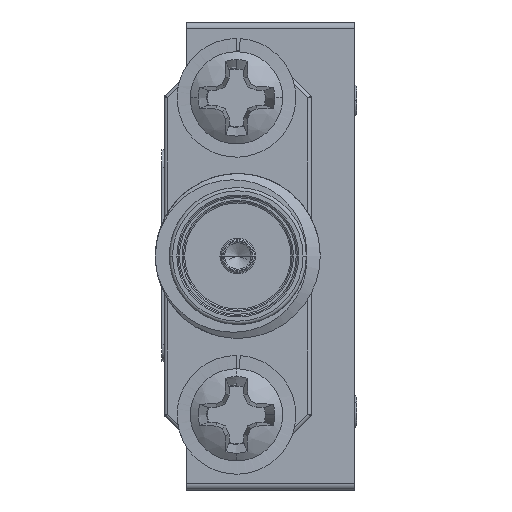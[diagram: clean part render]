
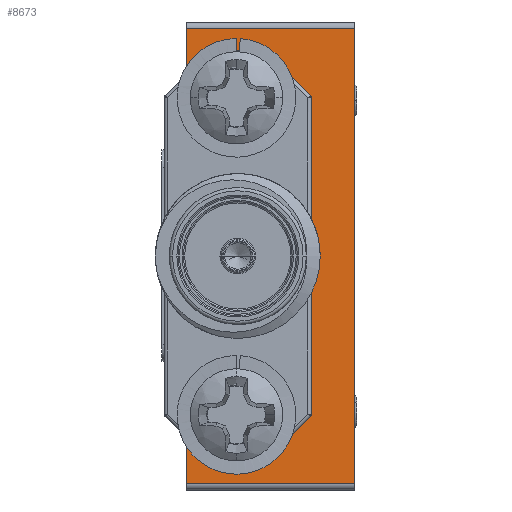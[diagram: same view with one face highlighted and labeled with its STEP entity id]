
A CAD part, left-side view. The second image highlights one B-rep face of the part: STEP entity #8673.
In plain terms, the highlighted planar face has unit normal (-1, 0, 0).
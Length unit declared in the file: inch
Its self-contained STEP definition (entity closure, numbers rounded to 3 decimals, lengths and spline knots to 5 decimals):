
#196 = VERTEX_POINT ( 'NONE', #20517 ) ;
#363 = DIRECTION ( 'NONE',  ( 0., 0., 1. ) ) ;
#400 = CARTESIAN_POINT ( 'NONE',  ( -0.55654, -0.05521, 0.27777 ) ) ;
#1000 = CARTESIAN_POINT ( 'NONE',  ( -0.55654, 0.09279, -0.24923 ) ) ;
#1042 = CIRCLE ( 'NONE', #8018, 0.0525 ) ;
#1639 = CARTESIAN_POINT ( 'NONE',  ( -0.55654, 0.01679, -0.14523 ) ) ;
#1949 = CIRCLE ( 'NONE', #29223, 0.0525 ) ;
#2214 = ORIENTED_EDGE ( 'NONE', *, *, #41386, .T. ) ;
#2350 = EDGE_CURVE ( 'NONE', #42363, #45473, #1949, .T. ) ;
#3027 = AXIS2_PLACEMENT_3D ( 'NONE', #22777, #40654, #363 ) ;
#4878 = ORIENTED_EDGE ( 'NONE', *, *, #47799, .F. ) ;
#5048 = LINE ( 'NONE', #27532, #45446 ) ;
#5480 = VECTOR ( 'NONE', #28879, 39.37008 ) ;
#6391 = CARTESIAN_POINT ( 'NONE',  ( -0.55654, -0.05521, -0.08623 ) ) ;
#7607 = VECTOR ( 'NONE', #34204, 39.37008 ) ;
#7717 = CARTESIAN_POINT ( 'NONE',  ( -0.55654, -0.05521, -0.08623 ) ) ;
#7958 = VECTOR ( 'NONE', #42414, 39.37008 ) ;
#8018 = AXIS2_PLACEMENT_3D ( 'NONE', #1639, #31178, #24097 ) ;
#8181 = EDGE_CURVE ( 'NONE', #22662, #26443, #5048, .T. ) ;
#8540 = LINE ( 'NONE', #1000, #7607 ) ;
#8621 = DIRECTION ( 'NONE',  ( -1., 0., 0. ) ) ;
#8673 = ADVANCED_FACE ( 'NONE', ( #32387, #20891, #13090 ), #14044, .F. ) ;
#8934 = LINE ( 'NONE', #31401, #7958 ) ;
#9571 = VERTEX_POINT ( 'NONE', #29258 ) ;
#9695 = EDGE_CURVE ( 'NONE', #31203, #9571, #29997, .T. ) ;
#10020 = CIRCLE ( 'NONE', #3027, 0.0525 ) ;
#10261 = CARTESIAN_POINT ( 'NONE',  ( -0.55654, 0.01679, -0.19773 ) ) ;
#10852 = DIRECTION ( 'NONE',  ( 0., 0., 1. ) ) ;
#12593 = CARTESIAN_POINT ( 'NONE',  ( -0.55654, 0.01679, 0.33577 ) ) ;
#12757 = DIRECTION ( 'NONE',  ( 0., 0., 1. ) ) ;
#13068 = CARTESIAN_POINT ( 'NONE',  ( -0.55654, 0.01679, -0.09273 ) ) ;
#13090 = FACE_BOUND ( 'NONE', #18542, .T. ) ;
#13119 = LINE ( 'NONE', #16772, #14021 ) ;
#13204 = CARTESIAN_POINT ( 'NONE',  ( -0.55654, 0.09279, 0.44077 ) ) ;
#14021 = VECTOR ( 'NONE', #31939, 39.37008 ) ;
#14044 = PLANE ( 'NONE',  #38430 ) ;
#14262 = EDGE_CURVE ( 'NONE', #23508, #22890, #8540, .T. ) ;
#15451 = CARTESIAN_POINT ( 'NONE',  ( -0.55654, 0.01679, -0.14523 ) ) ;
#16772 = CARTESIAN_POINT ( 'NONE',  ( -0.55654, 0.09279, -0.25923 ) ) ;
#16999 = ORIENTED_EDGE ( 'NONE', *, *, #42371, .F. ) ;
#17915 = CARTESIAN_POINT ( 'NONE',  ( -0.55654, -0.16221, 0.44077 ) ) ;
#18542 = EDGE_LOOP ( 'NONE', ( #16999, #44404 ) ) ;
#19829 = VERTEX_POINT ( 'NONE', #39052 ) ;
#19921 = DIRECTION ( 'NONE',  ( -1., 0., 0. ) ) ;
#20394 = DIRECTION ( 'NONE',  ( 0., 0., 1. ) ) ;
#20517 = CARTESIAN_POINT ( 'NONE',  ( -0.55654, 0.09279, -0.08623 ) ) ;
#20652 = CARTESIAN_POINT ( 'NONE',  ( -0.55654, 0.09279, -0.25923 ) ) ;
#20853 = ORIENTED_EDGE ( 'NONE', *, *, #43692, .F. ) ;
#20891 = FACE_BOUND ( 'NONE', #32414, .T. ) ;
#21686 = EDGE_CURVE ( 'NONE', #19829, #40412, #10020, .T. ) ;
#22414 = VECTOR ( 'NONE', #41177, 39.37008 ) ;
#22662 = VERTEX_POINT ( 'NONE', #17915 ) ;
#22777 = CARTESIAN_POINT ( 'NONE',  ( -0.55654, 0.01679, 0.33577 ) ) ;
#22890 = VERTEX_POINT ( 'NONE', #35024 ) ;
#23508 = VERTEX_POINT ( 'NONE', #34422 ) ;
#24097 = DIRECTION ( 'NONE',  ( 0., 0., 1. ) ) ;
#24161 = EDGE_CURVE ( 'NONE', #9571, #26443, #13119, .T. ) ;
#25739 = ORIENTED_EDGE ( 'NONE', *, *, #9695, .F. ) ;
#25786 = EDGE_CURVE ( 'NONE', #23508, #196, #44334, .T. ) ;
#25977 = AXIS2_PLACEMENT_3D ( 'NONE', #12593, #19921, #20394 ) ;
#26443 = VERTEX_POINT ( 'NONE', #13204 ) ;
#27532 = CARTESIAN_POINT ( 'NONE',  ( -0.55654, 0.09279, 0.44077 ) ) ;
#28770 = CARTESIAN_POINT ( 'NONE',  ( -0.55654, -0.05521, 0.27777 ) ) ;
#28879 = DIRECTION ( 'NONE',  ( 0., 1., 0. ) ) ;
#29223 = AXIS2_PLACEMENT_3D ( 'NONE', #15451, #8621, #12757 ) ;
#29258 = CARTESIAN_POINT ( 'NONE',  ( -0.55654, 0.09279, 0.27777 ) ) ;
#29496 = DIRECTION ( 'NONE',  ( 0., 1., 0. ) ) ;
#29677 = LINE ( 'NONE', #400, #22414 ) ;
#29997 = LINE ( 'NONE', #44916, #34745 ) ;
#30376 = ORIENTED_EDGE ( 'NONE', *, *, #2350, .F. ) ;
#31178 = DIRECTION ( 'NONE',  ( -1., 0., 0. ) ) ;
#31203 = VERTEX_POINT ( 'NONE', #28770 ) ;
#31401 = CARTESIAN_POINT ( 'NONE',  ( -0.55654, -0.16221, -0.25923 ) ) ;
#31939 = DIRECTION ( 'NONE',  ( 0., 0., 1. ) ) ;
#32387 = FACE_OUTER_BOUND ( 'NONE', #40448, .T. ) ;
#32414 = EDGE_LOOP ( 'NONE', ( #30376, #20853 ) ) ;
#34133 = CARTESIAN_POINT ( 'NONE',  ( -0.55654, 0.01679, 0.38827 ) ) ;
#34204 = DIRECTION ( 'NONE',  ( 0., -1., 0. ) ) ;
#34235 = ORIENTED_EDGE ( 'NONE', *, *, #8181, .T. ) ;
#34422 = CARTESIAN_POINT ( 'NONE',  ( -0.55654, 0.09279, -0.24923 ) ) ;
#34726 = ORIENTED_EDGE ( 'NONE', *, *, #24161, .F. ) ;
#34745 = VECTOR ( 'NONE', #29496, 39.37008 ) ;
#35024 = CARTESIAN_POINT ( 'NONE',  ( -0.55654, -0.16221, -0.24923 ) ) ;
#35099 = DIRECTION ( 'NONE',  ( 0., 1., 0. ) ) ;
#35580 = DIRECTION ( 'NONE',  ( 0., 0., -1. ) ) ;
#36705 = LINE ( 'NONE', #6391, #5480 ) ;
#38430 = AXIS2_PLACEMENT_3D ( 'NONE', #20652, #43862, #35580 ) ;
#39052 = CARTESIAN_POINT ( 'NONE',  ( -0.55654, 0.01679, 0.28327 ) ) ;
#39712 = ORIENTED_EDGE ( 'NONE', *, *, #39725, .T. ) ;
#39725 = EDGE_CURVE ( 'NONE', #41266, #196, #36705, .T. ) ;
#40147 = ORIENTED_EDGE ( 'NONE', *, *, #14262, .T. ) ;
#40412 = VERTEX_POINT ( 'NONE', #34133 ) ;
#40448 = EDGE_LOOP ( 'NONE', ( #2214, #34235, #34726, #25739, #4878, #39712, #40798, #40147 ) ) ;
#40654 = DIRECTION ( 'NONE',  ( -1., 0., 0. ) ) ;
#40798 = ORIENTED_EDGE ( 'NONE', *, *, #25786, .F. ) ;
#40824 = CIRCLE ( 'NONE', #25977, 0.0525 ) ;
#41177 = DIRECTION ( 'NONE',  ( 0., 0., 1. ) ) ;
#41266 = VERTEX_POINT ( 'NONE', #7717 ) ;
#41386 = EDGE_CURVE ( 'NONE', #22890, #22662, #8934, .T. ) ;
#42233 = VECTOR ( 'NONE', #10852, 39.37008 ) ;
#42363 = VERTEX_POINT ( 'NONE', #13068 ) ;
#42371 = EDGE_CURVE ( 'NONE', #40412, #19829, #40824, .T. ) ;
#42414 = DIRECTION ( 'NONE',  ( 0., 0., 1. ) ) ;
#43692 = EDGE_CURVE ( 'NONE', #45473, #42363, #1042, .T. ) ;
#43862 = DIRECTION ( 'NONE',  ( 1., 0., 0. ) ) ;
#44334 = LINE ( 'NONE', #47279, #42233 ) ;
#44404 = ORIENTED_EDGE ( 'NONE', *, *, #21686, .F. ) ;
#44916 = CARTESIAN_POINT ( 'NONE',  ( -0.55654, -0.05521, 0.27777 ) ) ;
#45446 = VECTOR ( 'NONE', #35099, 39.37008 ) ;
#45473 = VERTEX_POINT ( 'NONE', #10261 ) ;
#47279 = CARTESIAN_POINT ( 'NONE',  ( -0.55654, 0.09279, -0.25923 ) ) ;
#47799 = EDGE_CURVE ( 'NONE', #41266, #31203, #29677, .T. ) ;
